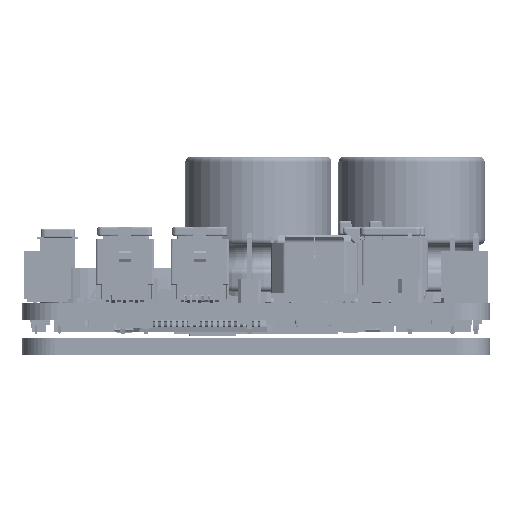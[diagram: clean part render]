
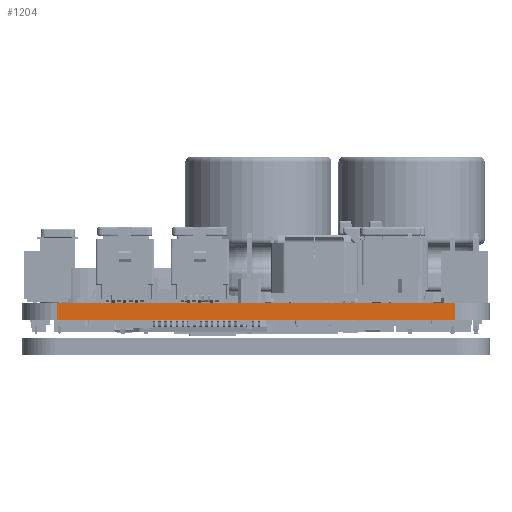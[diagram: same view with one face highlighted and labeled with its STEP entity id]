
A CAD part, left-side view. The second image highlights one B-rep face of the part: STEP entity #1204.
In plain terms, the highlighted planar face has unit normal (-1, 0, 0).
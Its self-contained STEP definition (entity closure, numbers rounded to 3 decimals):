
#1177 = VERTEX_POINT('',#1178);
#1178 = CARTESIAN_POINT('',(0.,-17.,1.454));
#1185 = EDGE_CURVE('',#1186,#1177,#1188,.T.);
#1186 = VERTEX_POINT('',#1187);
#1187 = CARTESIAN_POINT('',(0.,-17.,0.));
#1188 = LINE('',#1189,#1190);
#1189 = CARTESIAN_POINT('',(0.,-17.,0.));
#1190 = VECTOR('',#1191,1.);
#1191 = DIRECTION('',(0.,0.,1.));
#1204 = ADVANCED_FACE('',(#1205),#1230,.T.);
#1205 = FACE_BOUND('',#1206,.T.);
#1206 = EDGE_LOOP('',(#1207,#1208,#1216,#1224));
#1207 = ORIENTED_EDGE('',*,*,#1185,.T.);
#1208 = ORIENTED_EDGE('',*,*,#1209,.T.);
#1209 = EDGE_CURVE('',#1177,#1210,#1212,.T.);
#1210 = VERTEX_POINT('',#1211);
#1211 = CARTESIAN_POINT('',(0.,17.,1.454));
#1212 = LINE('',#1213,#1214);
#1213 = CARTESIAN_POINT('',(0.,-17.,1.454));
#1214 = VECTOR('',#1215,1.);
#1215 = DIRECTION('',(0.,1.,0.));
#1216 = ORIENTED_EDGE('',*,*,#1217,.F.);
#1217 = EDGE_CURVE('',#1218,#1210,#1220,.T.);
#1218 = VERTEX_POINT('',#1219);
#1219 = CARTESIAN_POINT('',(0.,17.,0.));
#1220 = LINE('',#1221,#1222);
#1221 = CARTESIAN_POINT('',(0.,17.,0.));
#1222 = VECTOR('',#1223,1.);
#1223 = DIRECTION('',(0.,0.,1.));
#1224 = ORIENTED_EDGE('',*,*,#1225,.F.);
#1225 = EDGE_CURVE('',#1186,#1218,#1226,.T.);
#1226 = LINE('',#1227,#1228);
#1227 = CARTESIAN_POINT('',(0.,-17.,0.));
#1228 = VECTOR('',#1229,1.);
#1229 = DIRECTION('',(0.,1.,0.));
#1230 = PLANE('',#1231);
#1231 = AXIS2_PLACEMENT_3D('',#1232,#1233,#1234);
#1232 = CARTESIAN_POINT('',(0.,-17.,0.));
#1233 = DIRECTION('',(-1.,0.,0.));
#1234 = DIRECTION('',(0.,1.,0.));
